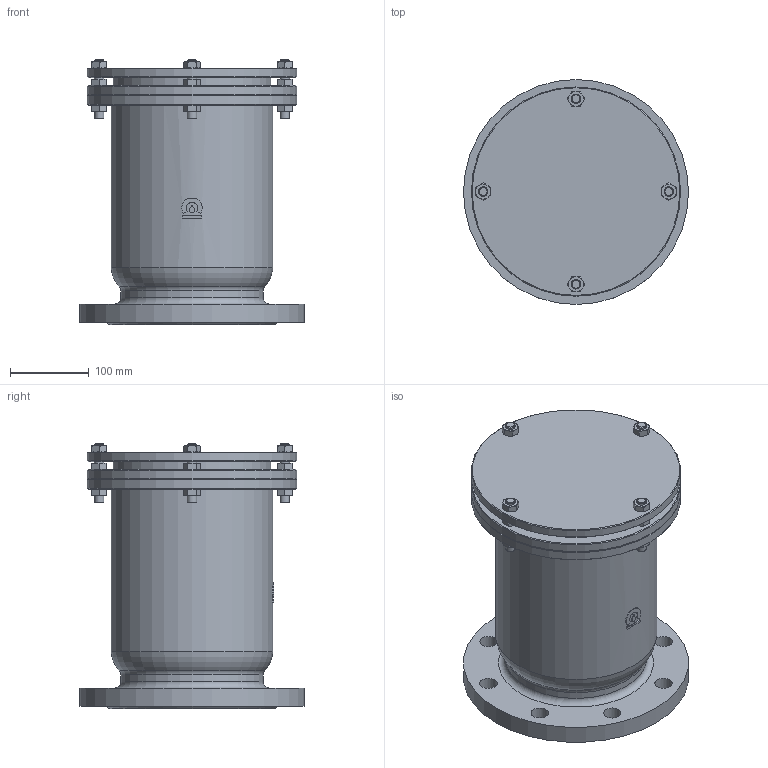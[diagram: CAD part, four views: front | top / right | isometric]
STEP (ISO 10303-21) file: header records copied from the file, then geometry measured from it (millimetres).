
FILE_DESCRIPTION(('STEP AP203'), '1');
FILE_NAME('Òèï A10F - Âîçäóõîîòâîä÷èê îäíîêàìåðíûé DN150', '', ('UNSPECIFIED'), ('UNSPECIFIED'), 'ASCON STEP Converter 1.6', 'ASCON Math Kernel', '');
FILE_SCHEMA(('CONFIG_CONTROL_DESIGN'));
Length unit declared in the file: millimetre
Products named in the file (1): Тип A10F
Bounding box: 285 x 285 x 336 mm (x, y, z)
Volume: 8993238 mm3; surface area: 540033.6 mm2
Topology: 1 solids, 1 shells, 304 faces, 657 edges, 386 vertices
Faces by surface type: cone 153, plane 112, cylinder 36, torus 3
Full cylindrical faces by diameter (mm): 12 x12, 22 x8, 150 x1, 180 x1, 200 x1, 205 x1, 263 x1, 265 x3, 285 x1
Entity records: 17143 total; most frequent: CARTESIAN_POINT 8634, ORIENTED_EDGE 1232, DIRECTION 1153, EDGE_CURVE 616, AXIS2_PLACEMENT_3D 529, EDGE_LOOP 400, VERTEX_POINT 386, FACE_BOUND 318
